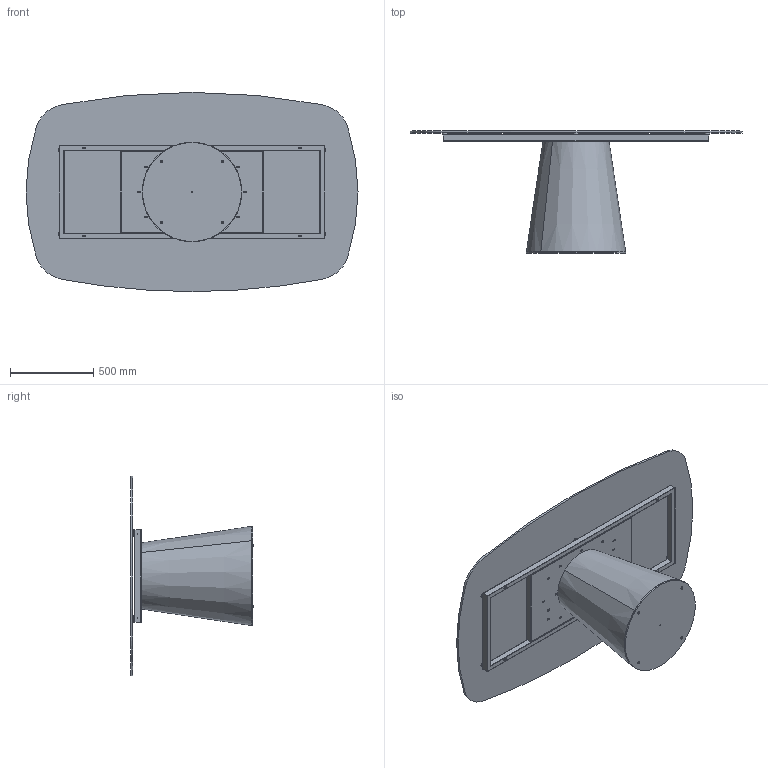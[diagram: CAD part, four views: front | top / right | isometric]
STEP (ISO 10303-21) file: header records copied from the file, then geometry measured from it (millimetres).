
FILE_DESCRIPTION (( 'STEP AP203' ), '1' );
FILE_NAME ('TO41G_Teo_200x120_Glass Shaped.STEP', '2024-08-02T09:29:08', ( '' ), ( '' ), 'SwSTEP 2.0', 'SolidWorks 2022', '' );
FILE_SCHEMA (( 'CONFIG_CONTROL_DESIGN' ));
Length unit declared in the file: millimetre
Products named in the file (11): 434070-00-PIEDINO TPV GOMMA NERO D. 30x8max18_filo estetico; TTAV01_01-05-TELAIO UNIVERSALE X TAVOLI 180 240cm; TTAV01-05-TELAIO UNIVERSALE X TAVOLI 180 240cm; TEO000000PIA-00-TEO PIASTRA DI BASE IN METALLO GREZZO; TO41G_Teo_200x120_Glass Shaped; BASE TED LEGNO CON ZAVORRA; COLLO TELAIO UNIVERSALE TTAV01 CON FERRAMENTA_MTG TOP CRISTALLO VERNICIATO-CERAMICA; C4XCRXX-00-Piani Sagomati in Cristallo_2000x1200; TTAV01_02-05-VASSOIO IRRIGIDIMENTO TELAIO UNIVERSALE; M8xXXmm_hex_M8X20mm; TEO0000-00-TEO BASE LEGNO IMPIALLACCIATA LEVIGATO PRONTA X VERNICE
Assembly tree (18 placements, depth 4):
  TO41G_Teo_200x120_Glass Shaped
    BASE TED LEGNO CON ZAVORRA
      TEO000000PIA-00-TEO PIASTRA DI BASE IN METALLO GREZZO
      TEO0000-00-TEO BASE LEGNO IMPIALLACCIATA LEVIGATO PRONTA X VERNICE
      M8xXXmm_hex_M8X20mm  x4
    COLLO TELAIO UNIVERSALE TTAV01 CON FERRAMENTA_MTG TOP CRISTALLO VERNICIATO-CERAMICA
      TTAV01-05-TELAIO UNIVERSALE X TAVOLI 180 240cm
        TTAV01_02-05-VASSOIO IRRIGIDIMENTO TELAIO UNIVERSALE
        TTAV01_01-05-TELAIO UNIVERSALE X TAVOLI 180 240cm
      434070-00-PIEDINO TPV GOMMA NERO D. 30x8max18_filo estetico  x6
    C4XCRXX-00-Piani Sagomati in Cristallo_2000x1200
Bounding box: 2000 x 735.19 x 1200 mm (x, y, z)
Volume: 57647852.8 mm3; surface area: 9797832 mm2
Topology: 21 solids, 21 shells, 513 faces, 1201 edges, 722 vertices
Faces by surface type: plane 242, cylinder 195, cone 36, torus 32, sphere 8
Entity records: 12176 total; most frequent: DIRECTION 1969, CARTESIAN_POINT 1843, ORIENTED_EDGE 1774, EDGE_CURVE 887, AXIS2_PLACEMENT_3D 715, VERTEX_POINT 557, LINE 539, VECTOR 539
